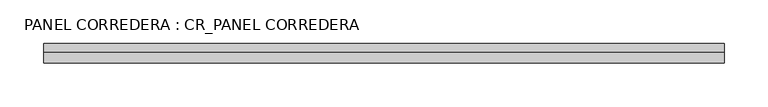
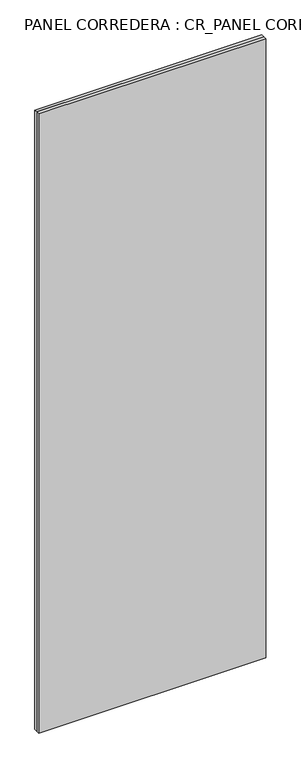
"""IFC4 building model written with IfcOpenShell, lengths in millimetres: plate geometry, PANEL CORREDERA : CR_PANEL CORREDERA."""

from ifc_helpers import new_model, si_unit, frame, origin, origin_with_axes, place, context, project, spatial, polyline, outline, extrude, source, transform, mapped, element, save


def panel_corredera_cr_panel_corredera_0bc1c699(model_context):
    return source(origin(), model_context, "Body", "SweptSolid", [
        extrude(outline(polyline([(2250.0, -315.0), (0.0, -315.0), (0.0, 465.0), (2250.0, 465.0), (2250.0, -315.0)]), holes=[polyline([(2230.0, -295.0), (2230.0, 445.0), (20.0, 445.0), (20.0, -295.0), (2230.0, -295.0)])]), frame((0.0, -30.0, 0.0), z_axis=(0.0, 1.0, 0.0), x_axis=(0.0, 0.0, 1.0)), (0.0, 0.0, 1.0), 10.0),
        extrude(outline(polyline([(465.0, -30.0), (465.0, -42.5), (-315.0, -42.5), (-315.0, -30.0), (465.0, -30.0)])), origin_with_axes(), (0.0, 0.0, 1.0), 2250.0),
    ])


if __name__ == "__main__":
    model = new_model("IFC4")
    model_context = context("Model", 3, world=origin())
    ifc_project = project(units=[si_unit("LENGTHUNIT", "METRE", prefix="MILLI")], contexts=[model_context])
    site = spatial("IfcSite", under=ifc_project)
    building = spatial("IfcBuilding", under=site)
    placement = place(None, origin())
    panel_corredera_cr_panel_corredera_shape = panel_corredera_cr_panel_corredera_0bc1c699(model_context)
    element("IfcPlate", 1, ObjectType="PANEL CORREDERA : CR_PANEL CORREDERA", at=placement, inside=building, context=model_context, shape_type="MappedRepresentation", body=[
        mapped(panel_corredera_cr_panel_corredera_shape, transform((0.0, 0.0, 0.0), x_axis=(1.0, 0.0, 0.0), y_axis=(0.0, 1.0, 0.0), z_axis=(0.0, 0.0, 1.0))),
    ])
    save(model, "model.ifc")
